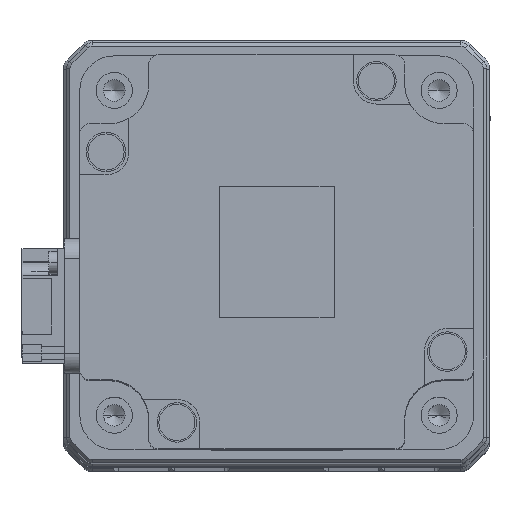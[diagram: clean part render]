
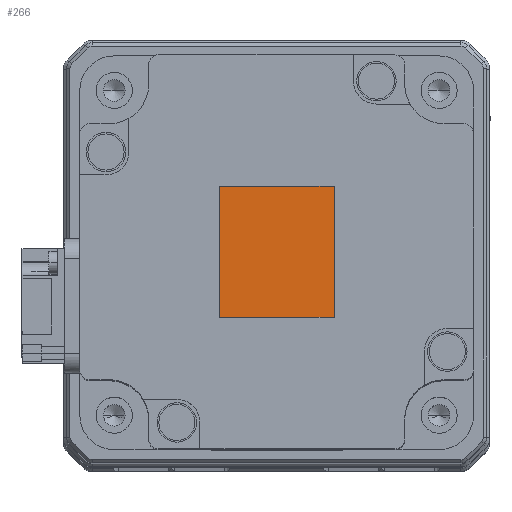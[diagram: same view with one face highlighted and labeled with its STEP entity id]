
A CAD part, top view. The second image highlights one B-rep face of the part: STEP entity #266.
In plain terms, the highlighted planar face has unit normal (0, 0, 1) as drawn and (0, 0, -1) by its records, which use the part's own axes.
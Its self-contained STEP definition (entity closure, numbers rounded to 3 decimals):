
#115 = DIRECTION ( 'NONE',  ( 0., 0., -1. ) ) ;
#182 = DIRECTION ( 'NONE',  ( -1., 0., 0. ) ) ;
#266 = ADVANCED_FACE ( 'NONE', ( #2604 ), #13011, .T. ) ;
#565 = LINE ( 'NONE', #12037, #26468 ) ;
#1402 = VECTOR ( 'NONE', #182, 1000. ) ;
#1406 = CARTESIAN_POINT ( 'NONE',  ( -10., -8.75, -98.6 ) ) ;
#2175 = LINE ( 'NONE', #25972, #1402 ) ;
#2604 = FACE_OUTER_BOUND ( 'NONE', #14722, .T. ) ;
#2774 = VECTOR ( 'NONE', #18493, 1000. ) ;
#3896 = VERTEX_POINT ( 'NONE', #23126 ) ;
#5491 = AXIS2_PLACEMENT_3D ( 'NONE', #31119, #115, #18228 ) ;
#5613 = EDGE_CURVE ( 'NONE', #30374, #21381, #2175, .T. ) ;
#8844 = LINE ( 'NONE', #27636, #28689 ) ;
#9279 = CARTESIAN_POINT ( 'NONE',  ( 10., 8.75, -98.6 ) ) ;
#9534 = ORIENTED_EDGE ( 'NONE', *, *, #30912, .T. ) ;
#9832 = ORIENTED_EDGE ( 'NONE', *, *, #22922, .T. ) ;
#12037 = CARTESIAN_POINT ( 'NONE',  ( -10., 8.75, -98.6 ) ) ;
#13011 = PLANE ( 'NONE',  #5491 ) ;
#13719 = VERTEX_POINT ( 'NONE', #9279 ) ;
#13980 = ORIENTED_EDGE ( 'NONE', *, *, #5613, .T. ) ;
#14661 = DIRECTION ( 'NONE',  ( 0., 1., 0. ) ) ;
#14722 = EDGE_LOOP ( 'NONE', ( #23247, #9534, #9832, #13980 ) ) ;
#17595 = EDGE_CURVE ( 'NONE', #21381, #3896, #565, .T. ) ;
#18228 = DIRECTION ( 'NONE',  ( -1., 0., 0. ) ) ;
#18493 = DIRECTION ( 'NONE',  ( 0., -1., 0. ) ) ;
#20882 = CARTESIAN_POINT ( 'NONE',  ( 10., 8.75, -98.6 ) ) ;
#21381 = VERTEX_POINT ( 'NONE', #1406 ) ;
#22922 = EDGE_CURVE ( 'NONE', #13719, #30374, #23469, .T. ) ;
#23126 = CARTESIAN_POINT ( 'NONE',  ( -10., 8.75, -98.6 ) ) ;
#23247 = ORIENTED_EDGE ( 'NONE', *, *, #17595, .T. ) ;
#23469 = LINE ( 'NONE', #20882, #2774 ) ;
#25972 = CARTESIAN_POINT ( 'NONE',  ( 10., -8.75, -98.6 ) ) ;
#26468 = VECTOR ( 'NONE', #14661, 1000. ) ;
#27636 = CARTESIAN_POINT ( 'NONE',  ( 10., 8.75, -98.6 ) ) ;
#28689 = VECTOR ( 'NONE', #30238, 1000. ) ;
#30047 = CARTESIAN_POINT ( 'NONE',  ( 10., -8.75, -98.6 ) ) ;
#30238 = DIRECTION ( 'NONE',  ( 1., 0., 0. ) ) ;
#30374 = VERTEX_POINT ( 'NONE', #30047 ) ;
#30912 = EDGE_CURVE ( 'NONE', #3896, #13719, #8844, .T. ) ;
#31119 = CARTESIAN_POINT ( 'NONE',  ( 10., -8.75, -98.6 ) ) ;
